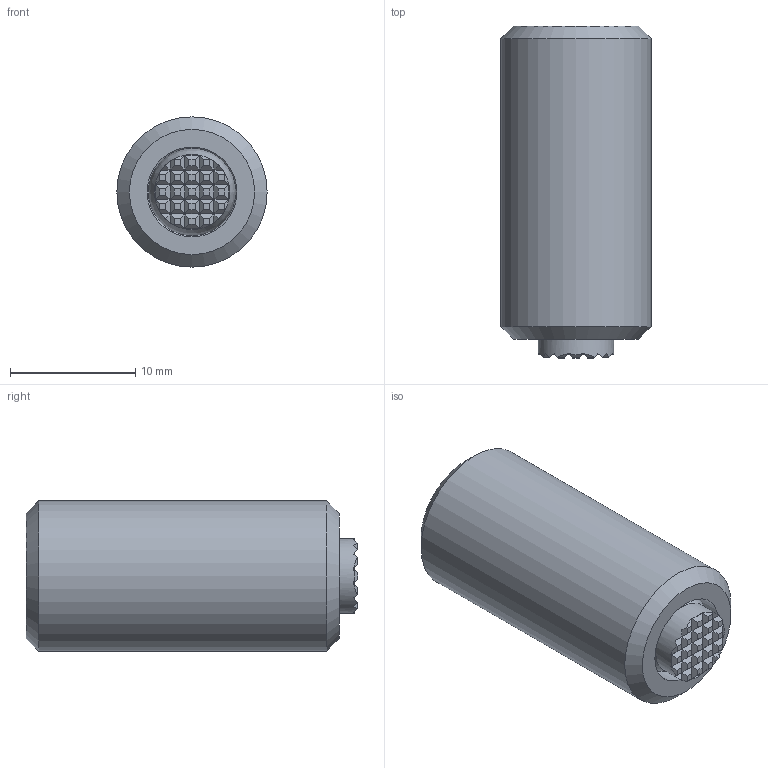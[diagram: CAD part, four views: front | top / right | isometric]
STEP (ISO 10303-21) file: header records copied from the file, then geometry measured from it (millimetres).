
FILE_DESCRIPTION( ( 'STEP AP203' ), '1' );
FILE_NAME( 'C:/Temp/Ganter_Step_05_03_2020/data/3_2/gn_709_8/gn_709_8r/Clamping pad GN 709.8-M12-25-R (0).stp', '2020-03-13T05:38:01', ( 'License CC BY-ND 4.0' ), ( 'CADENAS' ), ' ', 'PARTsolutions', ' ' );
FILE_SCHEMA( ( 'CONFIG_CONTROL_DESIGN' ) );
Length unit declared in the file: millimetre
Products named in the file (3): Clamping pad GN 709.8-M12-25-R (0); _Pendelelement GN 709.8-M12-25-R-1; _Pendelelement GN 709.8-M12-25-R-2
Assembly tree (2 placements, depth 2):
  Clamping pad GN 709.8-M12-25-R (0)
    _Pendelelement GN 709.8-M12-25-R-1
    _Pendelelement GN 709.8-M12-25-R-2
Bounding box: 12 x 26.5 x 12 mm (x, y, z)
Volume: 2583.5 mm3; surface area: 1550.4 mm2
Topology: 2 solids, 2 shells, 162 faces, 347 edges, 190 vertices
Faces by surface type: plane 155, cone 3, cylinder 3, sphere 1
Full cylindrical faces by diameter (mm): 6 x1, 7.18 x1, 12 x1
Entity records: 4242 total; most frequent: DIRECTION 732, CARTESIAN_POINT 692, ORIENTED_EDGE 676, EDGE_CURVE 338, LINE 274, VECTOR 274, AXIS2_PLACEMENT_3D 229, VERTEX_POINT 189
